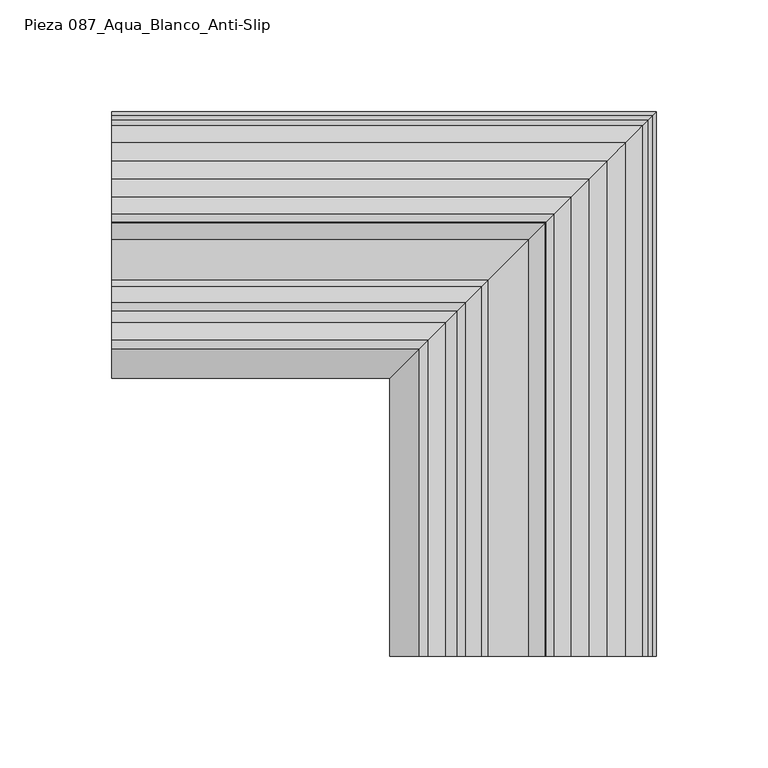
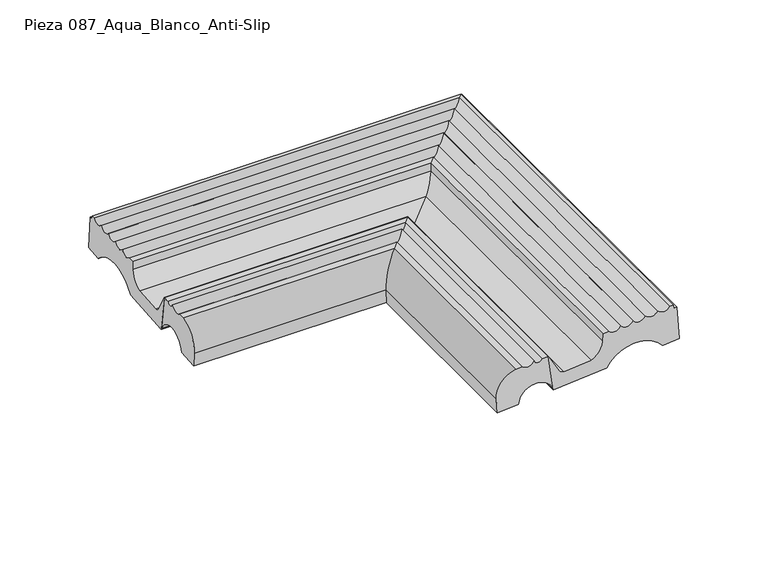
"""IFC4 building model written with IfcOpenShell, lengths in millimetres: proxy geometry, ROSA GRES_087 : Pieza 087_Aqua_Blanco_Anti-Slip."""

from ifc_helpers import new_model, si_unit, frame, origin, place, context, project, spatial, polyline, circle_curve, ellipse_curve, source, transform, mapped, element, save
from ifc_brep_helpers import plane_surface, cylinder_surface, revolved_surface, advanced_brep


def pieza_087_aqua_blanco_anti_slip_ab740b2f(model_context):
    return source(origin(), model_context, "Body", "AdvancedBrep", [
        advanced_brep(
        [(-124.7, 108.342302, 181.9645582), (-124.7, 71.8498608, 178.9942432), (-124.7, 37.1820416, 176.172444), (-124.7, 33.8762309, 200.4746837), (-124.7, 40.9402045, 187.8896178), (-124.7, 43.8250834, 186.3216491), (-124.7, 61.867532, 187.7902205), (-124.7, 69.3023399, 198.236672), (-124.7, 69.6579726, 203.3871621), (-124.7, 73.3820924, 203.6902881), (-124.7, 81.0271834, 204.8942251), (-124.7, 89.0833894, 205.555394), (-124.7, 97.1292049, 206.1928503), (-124.7, 105.2742048, 206.836894), (-124.7, 113.0660814, 207.0070959), (-124.7, 115.3491545, 207.1930072), (-124.7, 115.5338707, 204.9236084), (-124.7, 117.4809059, 205.0820876), (-124.7, 119.2900344, 182.8556525), (108.342302, -124.7, 181.9645582), (119.2900344, -124.7, 182.8556525), (117.4809059, -124.7, 205.0820876), (115.5338707, -124.7, 204.9236084), (115.3491545, -124.7, 207.1930072), (113.0660814, -124.7, 207.0070959), (105.2742048, -124.7, 206.836894), (97.1292049, -124.7, 206.1928503), (89.0833894, -124.7, 205.555394), (81.0271834, -124.7, 204.8942251), (73.3820924, -124.7, 203.6902881), (69.6579726, -124.7, 203.3871621), (69.3023399, -124.7, 198.236672), (61.867532, -124.7, 187.7902205), (43.8250834, -124.7, 186.3216491), (40.9402045, -124.7, 187.8896178), (33.8762309, -124.7, 200.4746837), (37.1820416, -124.7, 176.172444), (71.8498608, -124.7, 178.9942432), (108.342302, 108.342302, 181.9645582), (71.8498608, 71.8498608, 178.9942432), (37.1820416, 37.1820416, 176.172444), (33.8762309, 33.8762309, 200.4746837), (40.9402045, 40.9402045, 187.8896178), (43.8250834, 43.8250834, 186.3216491), (61.867532, 61.867532, 187.7902205), (69.3023399, 69.3023399, 198.236672), (69.6579726, 69.6579726, 203.3871621), (73.3820924, 73.3820924, 203.6902881), (81.0271834, 81.0271834, 204.8942251), (89.0833894, 89.0833894, 205.555394), (97.1292049, 97.1292049, 206.1928503), (105.2742048, 105.2742048, 206.836894), (113.0660814, 113.0660814, 207.0070959), (115.3491545, 115.3491545, 207.1930072), (115.5338707, 115.5338707, 204.9236084), (117.4809059, 117.4809059, 205.0820876), (119.2900344, 119.2900344, 182.8556525)],
        [
            (0, 1, circle_curve(frame((-124.7, 91.1625174, 167.3774726), z_axis=(1.0, 0.0, 0.0), x_axis=(0.0, -1.0, 0.0)), 22.5372595)),
            (1, 2),
            (2, 3),
            (3, 4, circle_curve(frame((-124.7, 106.9597263, 233.2212806), z_axis=(1.0, 0.0, 0.0), x_axis=(0.0, -1.0, 0.0)), 80.084561)),
            (4, 5, circle_curve(frame((-124.7, 43.5817022, 189.3117604), z_axis=(1.0, 0.0, 0.0), x_axis=(0.0, -1.0, 0.0)), 3.0)),
            (5, 6),
            (6, 7, circle_curve(frame((-124.7, 57.0579989, 199.0821231), z_axis=(1.0, 0.0, 0.0), x_axis=(0.0, -1.0, 0.0)), 12.2734948)),
            (7, 8),
            (8, 9),
            (9, 10, circle_curve(frame((-124.7, 76.8218788, 206.722806), z_axis=(1.0, 0.0, 0.0), x_axis=(0.0, -1.0, 0.0)), 4.5856619)),
            (10, 11, circle_curve(frame((-124.7, 84.8780848, 207.3839748), z_axis=(1.0, 0.0, 0.0), x_axis=(0.0, -1.0, 0.0)), 4.5856619)),
            (11, 12, circle_curve(frame((-124.7, 92.9342908, 208.0451437), z_axis=(1.0, 0.0, 0.0), x_axis=(0.0, -1.0, 0.0)), 4.5856619)),
            (12, 13, circle_curve(frame((-124.7, 100.9933064, 209.1504161), z_axis=(1.0, 0.0, 0.0), x_axis=(0.0, -1.0, 0.0)), 4.8660534)),
            (13, 14, circle_curve(frame((-124.7, 109.1074243, 209.7932705), z_axis=(1.0, 0.0, 0.0), x_axis=(0.0, -1.0, 0.0)), 4.8408403)),
            (14, 15),
            (15, 16),
            (16, 17),
            (17, 18),
            (18, 0),
            (19, 20),
            (20, 21),
            (21, 22),
            (22, 23),
            (23, 24),
            (24, 25, circle_curve(frame((109.1074243, -124.7, 209.7932705), z_axis=(0.0, 1.0, 0.0), x_axis=(-1.0, 0.0, 0.0)), 4.8408403)),
            (25, 26, circle_curve(frame((100.9933064, -124.7, 209.1504161), z_axis=(0.0, 1.0, 0.0), x_axis=(-1.0, 0.0, 0.0)), 4.8660534)),
            (26, 27, circle_curve(frame((92.9342908, -124.7, 208.0451437), z_axis=(0.0, 1.0, 0.0), x_axis=(-1.0, 0.0, 0.0)), 4.5856619)),
            (27, 28, circle_curve(frame((84.8780848, -124.7, 207.3839748), z_axis=(0.0, 1.0, 0.0), x_axis=(-1.0, 0.0, 0.0)), 4.5856619)),
            (28, 29, circle_curve(frame((76.8218788, -124.7, 206.722806), z_axis=(0.0, 1.0, 0.0), x_axis=(-1.0, 0.0, 0.0)), 4.5856619)),
            (29, 30),
            (30, 31),
            (31, 32, circle_curve(frame((57.0579989, -124.7, 199.0821231), z_axis=(0.0, 1.0, 0.0), x_axis=(-1.0, 0.0, 0.0)), 12.2734948)),
            (32, 33),
            (33, 34, circle_curve(frame((43.5817022, -124.7, 189.3117604), z_axis=(0.0, 1.0, 0.0), x_axis=(-1.0, 0.0, 0.0)), 3.0)),
            (34, 35, circle_curve(frame((106.9597263, -124.7, 233.2212806), z_axis=(0.0, 1.0, 0.0), x_axis=(-1.0, 0.0, 0.0)), 80.084561)),
            (35, 36),
            (36, 37),
            (37, 19, circle_curve(frame((91.1625174, -124.7, 167.3774726), z_axis=(0.0, 1.0, 0.0), x_axis=(-1.0, 0.0, 0.0)), 22.5372595)),
            (0, 38),
            (38, 39, ellipse_curve(frame((91.1625174, 91.1625174, 167.3774726), z_axis=(0.7071067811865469, -0.7071067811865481, 0.0), x_axis=(0.7071067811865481, 0.7071067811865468, 0.0)), 31.872498, 22.5372595)),
            (39, 1),
            (39, 40),
            (40, 2),
            (40, 41),
            (41, 3),
            (41, 42, ellipse_curve(frame((106.9597263, 106.9597263, 233.2212806), z_axis=(0.7071067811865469, -0.7071067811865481, 0.0), x_axis=(0.7071067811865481, 0.7071067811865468, 0.0)), 113.2566723, 80.084561)),
            (42, 4),
            (42, 43, ellipse_curve(frame((43.5817022, 43.5817022, 189.3117604), z_axis=(0.7071067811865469, -0.7071067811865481, 0.0), x_axis=(0.7071067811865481, 0.7071067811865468, 0.0)), 4.2426407, 3.0)),
            (43, 5),
            (43, 44),
            (44, 6),
            (44, 45, ellipse_curve(frame((57.0579989, 57.0579989, 199.0821231), z_axis=(0.7071067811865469, -0.7071067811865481, 0.0), x_axis=(0.7071067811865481, 0.7071067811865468, 0.0)), 17.3573428, 12.2734948)),
            (45, 7),
            (45, 46),
            (46, 8),
            (46, 47),
            (47, 9),
            (47, 48, ellipse_curve(frame((76.8218788, 76.8218788, 206.722806), z_axis=(0.7071067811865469, -0.7071067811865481, 0.0), x_axis=(0.7071067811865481, 0.7071067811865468, 0.0)), 6.4851052, 4.5856619)),
            (48, 10),
            (48, 49, ellipse_curve(frame((84.8780848, 84.8780848, 207.3839748), z_axis=(0.7071067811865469, -0.7071067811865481, 0.0), x_axis=(0.7071067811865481, 0.7071067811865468, 0.0)), 6.4851052, 4.5856619)),
            (49, 11),
            (49, 50, ellipse_curve(frame((92.9342908, 92.9342908, 208.0451437), z_axis=(0.7071067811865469, -0.7071067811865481, 0.0), x_axis=(0.7071067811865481, 0.7071067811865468, 0.0)), 6.4851052, 4.5856619)),
            (50, 12),
            (50, 51, ellipse_curve(frame((100.9933064, 100.9933064, 209.1504161), z_axis=(0.7071067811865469, -0.7071067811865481, 0.0), x_axis=(0.7071067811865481, 0.7071067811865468, 0.0)), 6.8816387, 4.8660534)),
            (51, 13),
            (51, 52, ellipse_curve(frame((109.1074243, 109.1074243, 209.7932705), z_axis=(0.7071067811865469, -0.7071067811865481, 0.0), x_axis=(0.7071067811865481, 0.7071067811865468, 0.0)), 6.8459819, 4.8408403)),
            (52, 14),
            (52, 53),
            (53, 15),
            (53, 54),
            (54, 16),
            (54, 55),
            (55, 17),
            (55, 56),
            (56, 18),
            (56, 38),
            (38, 19),
            (37, 39),
            (36, 40),
            (35, 41),
            (34, 42),
            (33, 43),
            (32, 44),
            (31, 45),
            (30, 46),
            (29, 47),
            (28, 48),
            (27, 49),
            (26, 50),
            (25, 51),
            (24, 52),
            (23, 53),
            (22, 54),
            (21, 55),
            (20, 56),
        ],
        [
            plane_surface(frame((-124.7, 0.0, 0.0), z_axis=(-1.0, 0.0, 0.0), x_axis=(0.0, 0.0, 1.0))),
            plane_surface(frame((0.0, -124.7, 0.0), z_axis=(0.0, -1.0, 0.0), x_axis=(0.0, 0.0, 1.0))),
            revolved_surface(polyline([(113.69977686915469, 68.6252579, 167.3774726), (-124.7, 68.6252579, 167.3774726)]), (-124.7, 91.1625174, 167.3774726), (1.0, 0.0, 0.0)),
            plane_surface(frame((-124.7, 71.8498608, 178.9942432), z_axis=(0.0, 0.08112705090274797, -0.9967037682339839), x_axis=(1.0, 0.0, 0.0))),
            plane_surface(frame((-124.7, 37.1820416, 176.172444), z_axis=(0.0, -0.9908744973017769, -0.13478772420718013), x_axis=(1.0, 0.0, 0.0))),
            revolved_surface(polyline([(187.04428729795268, 26.875165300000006, 233.2212806), (-124.7, 26.875165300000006, 233.2212806)]), (-124.7, 106.9597263, 233.2212806), (1.0, 0.0, 0.0)),
            revolved_surface(polyline([(46.58170220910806, 40.5817022, 189.3117604), (-124.7, 40.5817022, 189.3117604)]), (-124.7, 43.5817022, 189.3117604), (1.0, 0.0, 0.0)),
            plane_surface(frame((-124.7, 43.8250834, 186.3216491), z_axis=(0.0, -0.08112705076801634, 0.9967037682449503), x_axis=(1.0, 0.0, 0.0))),
            revolved_surface(polyline([(69.33149369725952, 44.7845041, 199.0821231), (-124.7, 44.7845041, 199.0821231)]), (-124.7, 57.0579989, 199.0821231), (1.0, 0.0, 0.0)),
            plane_surface(frame((-124.7, 69.3023399, 198.236672), z_axis=(0.0, -0.9976246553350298, 0.0688843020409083), x_axis=(1.0, 0.0, 0.0))),
            plane_surface(frame((-124.7, 69.6579726, 203.3871621), z_axis=(0.0, -0.08112705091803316, 0.9967037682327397), x_axis=(1.0, 0.0, 0.0))),
            revolved_surface(polyline([(81.40754066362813, 72.23621689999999, 206.722806), (-124.7, 72.23621689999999, 206.722806)]), (-124.7, 76.8218788, 206.722806), (1.0, 0.0, 0.0)),
            revolved_surface(polyline([(89.46374666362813, 80.29242289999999, 207.3839748), (-124.7, 80.29242289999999, 207.3839748)]), (-124.7, 84.8780848, 207.3839748), (1.0, 0.0, 0.0)),
            revolved_surface(polyline([(97.51995266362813, 88.3486289, 208.0451437), (-124.7, 88.3486289, 208.0451437)]), (-124.7, 92.9342908, 208.0451437), (1.0, 0.0, 0.0)),
            revolved_surface(polyline([(105.85935979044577, 96.127253, 209.1504161), (-124.7, 96.127253, 209.1504161)]), (-124.7, 100.9933064, 209.1504161), (1.0, 0.0, 0.0)),
            revolved_surface(polyline([(113.94826452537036, 104.26658400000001, 209.7932705), (-124.7, 104.26658400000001, 209.7932705)]), (-124.7, 109.1074243, 209.7932705), (1.0, 0.0, 0.0)),
            plane_surface(frame((-124.7, 113.0660814, 207.0070959), z_axis=(0.0, -0.08116163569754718, 0.9967009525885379), x_axis=(1.0, 0.0, 0.0))),
            plane_surface(frame((-124.7, 115.3491545, 207.1930072), z_axis=(0.0, 0.9967038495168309, 0.08112605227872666), x_axis=(1.0, 0.0, 0.0))),
            plane_surface(frame((-124.7, 115.5338707, 204.9236084), z_axis=(0.0, -0.081126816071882, 0.9967037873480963), x_axis=(1.0, 0.0, 0.0))),
            plane_surface(frame((-124.7, 117.4809059, 205.0820876), z_axis=(0.0, 0.9967037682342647, 0.0811270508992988), x_axis=(1.0, 0.0, 0.0))),
            plane_surface(frame((-124.7, 119.2900344, 182.8556525), z_axis=(0.0, 0.08112703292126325, -0.9967037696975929), x_axis=(1.0, 0.0, 0.0))),
            revolved_surface(polyline([(68.6252579, -124.7, 167.3774726), (68.6252579, 113.69977686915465, 167.3774726)]), (91.1625174, 0.0, 167.3774726), (0.0, -1.0, 0.0)),
            plane_surface(frame((71.8498608, 71.8498608, 178.9942432), z_axis=(0.08112705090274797, 0.0, -0.9967037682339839), x_axis=(0.0, -1.0, 0.0))),
            plane_surface(frame((37.1820416, 37.1820416, 176.172444), z_axis=(-0.9908744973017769, 0.0, -0.13478772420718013), x_axis=(0.0, -1.0, 0.0))),
            revolved_surface(polyline([(26.875165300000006, -124.7, 233.2212806), (26.875165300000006, 187.04428729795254, 233.2212806)]), (106.9597263, 0.0, 233.2212806), (0.0, -1.0, 0.0)),
            revolved_surface(polyline([(40.5817022, -124.7, 189.3117604), (40.5817022, 46.58170220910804, 189.3117604)]), (43.5817022, 0.0, 189.3117604), (0.0, -1.0, 0.0)),
            plane_surface(frame((43.8250834, 43.8250834, 186.3216491), z_axis=(-0.08112705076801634, 0.0, 0.9967037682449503), x_axis=(0.0, -1.0, 0.0))),
            revolved_surface(polyline([(44.7845041, -124.7, 199.0821231), (44.7845041, 69.33149369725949, 199.0821231)]), (57.0579989, 0.0, 199.0821231), (0.0, -1.0, 0.0)),
            plane_surface(frame((69.3023399, 69.3023399, 198.236672), z_axis=(-0.9976246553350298, 0.0, 0.0688843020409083), x_axis=(0.0, -1.0, 0.0))),
            plane_surface(frame((69.6579726, 69.6579726, 203.3871621), z_axis=(-0.08112705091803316, 0.0, 0.9967037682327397), x_axis=(0.0, -1.0, 0.0))),
            revolved_surface(polyline([(72.23621689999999, -124.7, 206.722806), (72.23621689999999, 81.40754066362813, 206.722806)]), (76.8218788, 0.0, 206.722806), (0.0, -1.0, 0.0)),
            revolved_surface(polyline([(80.29242289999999, -124.7, 207.3839748), (80.29242289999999, 89.46374666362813, 207.3839748)]), (84.8780848, 0.0, 207.3839748), (0.0, -1.0, 0.0)),
            revolved_surface(polyline([(88.3486289, -124.7, 208.0451437), (88.3486289, 97.51995266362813, 208.0451437)]), (92.9342908, 0.0, 208.0451437), (0.0, -1.0, 0.0)),
            revolved_surface(polyline([(96.127253, -124.7, 209.1504161), (96.127253, 105.85935979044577, 209.1504161)]), (100.9933064, 0.0, 209.1504161), (0.0, -1.0, 0.0)),
            revolved_surface(polyline([(104.26658400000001, -124.7, 209.7932705), (104.26658400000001, 113.94826452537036, 209.7932705)]), (109.1074243, 0.0, 209.7932705), (0.0, -1.0, 0.0)),
            plane_surface(frame((113.0660814, 113.0660814, 207.0070959), z_axis=(-0.08116163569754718, 0.0, 0.9967009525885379), x_axis=(0.0, -1.0, 0.0))),
            plane_surface(frame((115.3491545, 115.3491545, 207.1930072), z_axis=(0.9967038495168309, 0.0, 0.08112605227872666), x_axis=(0.0, -1.0, 0.0))),
            plane_surface(frame((115.5338707, 115.5338707, 204.9236084), z_axis=(-0.081126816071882, 0.0, 0.9967037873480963), x_axis=(0.0, -1.0, 0.0))),
            plane_surface(frame((117.4809059, 117.4809059, 205.0820876), z_axis=(0.9967037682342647, 0.0, 0.0811270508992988), x_axis=(0.0, -1.0, 0.0))),
            plane_surface(frame((119.2900344, 119.2900344, 182.8556525), z_axis=(0.08112703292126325, 0.0, -0.9967037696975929), x_axis=(0.0, -1.0, 0.0))),
        ],
        [
            (0, [[1, 2, 3, 4, 5, 6, 7, 8, 9, 10, 11, 12, 13, 14, 15, 16, 17, 18, 19]]),
            (1, [[20, 21, 22, 23, 24, 25, 26, 27, 28, 29, 30, 31, 32, 33, 34, 35, 36, 37, 38]]),
            (2, [[-1, 39, 40, 41]]),
            (3, [[-2, -41, 42, 43]]),
            (4, [[-3, -43, 44, 45]]),
            (5, [[-4, -45, 46, 47]]),
            (6, [[-5, -47, 48, 49]]),
            (7, [[-6, -49, 50, 51]]),
            (8, [[-7, -51, 52, 53]]),
            (9, [[-8, -53, 54, 55]]),
            (10, [[-9, -55, 56, 57]]),
            (11, [[-10, -57, 58, 59]]),
            (12, [[-11, -59, 60, 61]]),
            (13, [[-12, -61, 62, 63]]),
            (14, [[-13, -63, 64, 65]]),
            (15, [[-14, -65, 66, 67]]),
            (16, [[-15, -67, 68, 69]]),
            (17, [[-16, -69, 70, 71]]),
            (18, [[-17, -71, 72, 73]]),
            (19, [[-18, -73, 74, 75]]),
            (20, [[-19, -75, 76, -39]]),
            (21, [[-40, 77, -38, 78]]),
            (22, [[-42, -78, -37, 79]]),
            (23, [[-44, -79, -36, 80]]),
            (24, [[-46, -80, -35, 81]]),
            (25, [[-48, -81, -34, 82]]),
            (26, [[-50, -82, -33, 83]]),
            (27, [[-52, -83, -32, 84]]),
            (28, [[-54, -84, -31, 85]]),
            (29, [[-56, -85, -30, 86]]),
            (30, [[-58, -86, -29, 87]]),
            (31, [[-60, -87, -28, 88]]),
            (32, [[-62, -88, -27, 89]]),
            (33, [[-64, -89, -26, 90]]),
            (34, [[-66, -90, -25, 91]]),
            (35, [[-68, -91, -24, 92]]),
            (36, [[-70, -92, -23, 93]]),
            (37, [[-72, -93, -22, 94]]),
            (38, [[-74, -94, -21, 95]]),
            (39, [[-76, -95, -20, -77]]),
        ],
    ),
        advanced_brep(
        [(-124.7, 14.3742659, 174.3159971), (-124.7, 0.6896004, 173.202129), (-124.7, -0.0710994, 182.547869), (-124.7, 12.7748841, 198.875801), (-124.7, 16.9364731, 199.1796191), (-124.7, 24.7247274, 200.6193952), (-124.7, 29.9345538, 200.1538709), (-124.7, 33.8762309, 200.4746837), (-124.7, 37.1820416, 176.172444), (14.3742659, 14.3742659, 174.3159971), (0.6896004, 0.6896004, 173.202129), (-0.0710994, -0.0710994, 182.547869), (12.7748841, 12.7748841, 198.875801), (16.9364731, 16.9364731, 199.1796191), (24.7247274, 24.7247274, 200.6193952), (29.9345538, 29.9345538, 200.1538709), (33.8762309, 33.8762309, 200.4746837), (37.1820416, 37.1820416, 176.172444), (14.3742659, -124.7099656, 174.3159971), (37.1820416, -124.7099656, 176.172444), (33.8762309, -124.7099656, 200.4746837), (29.9345538, -124.7099656, 200.1538709), (24.7247274, -124.7099656, 200.6193952), (16.9364731, -124.7099656, 199.1796191), (12.7748841, -124.7099656, 198.875801), (-0.0710994, -124.7099656, 182.547869), (0.6896004, -124.7099656, 173.202129)],
        [
            (0, 1),
            (1, 2),
            (2, 3, circle_curve(frame((-124.7, 15.1536138, 183.7870899), z_axis=(-1.0, 0.0, 0.0), x_axis=(0.0, -1.0, 0.0)), 15.2750633)),
            (3, 4),
            (4, 5, circle_curve(frame((-124.7, 20.3008643, 202.7650351), z_axis=(1.0, 0.0, 0.0), x_axis=(0.0, -1.0, 0.0)), 4.9167404)),
            (5, 6, circle_curve(frame((-124.7, 27.3971937, 201.142641), z_axis=(1.0, 0.0, 0.0), x_axis=(0.0, -1.0, 0.0)), 2.7232081)),
            (6, 7),
            (7, 8),
            (8, 0, circle_curve(frame((-124.7, 25.9545763, 173.0767428), z_axis=(1.0, 0.0, 0.0), x_axis=(0.0, -1.0, 0.0)), 11.6464304)),
            (0, 9),
            (9, 10),
            (10, 1),
            (10, 11),
            (11, 2),
            (11, 12, ellipse_curve(frame((15.1536138, 15.1536138, 183.7870899), z_axis=(-0.7071067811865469, 0.7071067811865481, 0.0), x_axis=(-0.7071067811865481, -0.7071067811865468, 0.0)), 21.6022017, 15.2750633)),
            (12, 3),
            (12, 13),
            (13, 4),
            (13, 14, ellipse_curve(frame((20.3008643, 20.3008643, 202.7650351), z_axis=(0.7071067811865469, -0.7071067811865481, 0.0), x_axis=(0.7071067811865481, 0.7071067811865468, 0.0)), 6.9533209, 4.9167404)),
            (14, 5),
            (14, 15, ellipse_curve(frame((27.3971937, 27.3971937, 201.142641), z_axis=(0.7071067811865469, -0.7071067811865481, 0.0), x_axis=(0.7071067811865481, 0.7071067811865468, 0.0)), 3.8511979, 2.7232081)),
            (15, 6),
            (15, 16),
            (16, 7),
            (16, 17),
            (17, 8),
            (17, 9, ellipse_curve(frame((25.9545763, 25.9545763, 173.0767428), z_axis=(0.7071067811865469, -0.7071067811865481, 0.0), x_axis=(0.7071067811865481, 0.7071067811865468, 0.0)), 16.4705399, 11.6464304)),
            (18, 19, circle_curve(frame((25.9545763, -124.7099656, 173.0767428), z_axis=(0.0, 1.0, 0.0), x_axis=(-1.0, 0.0, 0.0)), 11.6464304)),
            (19, 20),
            (20, 21),
            (21, 22, circle_curve(frame((27.3971937, -124.7099656, 201.142641), z_axis=(0.0, 1.0, 0.0), x_axis=(-1.0, 0.0, 0.0)), 2.7232081)),
            (22, 23, circle_curve(frame((20.3008643, -124.7099656, 202.7650351), z_axis=(0.0, 1.0, 0.0), x_axis=(-1.0, 0.0, 0.0)), 4.9167404)),
            (23, 24),
            (24, 25, circle_curve(frame((15.1536138, -124.7099656, 183.7870899), z_axis=(0.0, -1.0, 0.0), x_axis=(-1.0, 0.0, 0.0)), 15.2750633)),
            (25, 26),
            (26, 18),
            (9, 18),
            (26, 10),
            (25, 11),
            (24, 12),
            (23, 13),
            (22, 14),
            (21, 15),
            (20, 16),
            (19, 17),
        ],
        [
            plane_surface(frame((-124.7, 0.0, 0.0), z_axis=(-1.0, 0.0, 0.0), x_axis=(0.0, 0.0, 1.0))),
            plane_surface(frame((-124.7, 14.3742659, 174.3159971), z_axis=(0.0, 0.0811270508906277, -0.9967037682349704), x_axis=(1.0, 0.0, 0.0))),
            plane_surface(frame((-124.7, 0.6896004, 173.202129), z_axis=(0.0, -0.9967037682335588, -0.08112705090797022), x_axis=(1.0, 0.0, 0.0))),
            cylinder_surface(frame((-124.7, 15.1536138, 183.7870899), z_axis=(-1.0, 0.0, 0.0), x_axis=(0.0, -1.0, 0.0)), 15.2750633),
            plane_surface(frame((-124.7, 12.7748841, 198.875801), z_axis=(0.0, -0.07281152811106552, 0.9973457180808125), x_axis=(1.0, 0.0, 0.0))),
            revolved_surface(polyline([(25.21760466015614, 15.3841239, 202.7650351), (-124.7, 15.3841239, 202.7650351)]), (-124.7, 20.3008643, 202.7650351), (1.0, 0.0, 0.0)),
            revolved_surface(polyline([(30.12040185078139, 24.673985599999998, 201.142641), (-124.7, 24.673985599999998, 201.142641)]), (-124.7, 27.3971937, 201.142641), (1.0, 0.0, 0.0)),
            plane_surface(frame((-124.7, 29.9345538, 200.1538709), z_axis=(0.0, -0.0811216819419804, 0.9967042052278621), x_axis=(1.0, 0.0, 0.0))),
            plane_surface(frame((-124.7, 33.8762309, 200.4746837), z_axis=(0.0, 0.9908744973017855, 0.13478772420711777), x_axis=(1.0, 0.0, 0.0))),
            revolved_surface(polyline([(37.601006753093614, 14.3081459, 173.0767428), (-124.7, 14.3081459, 173.0767428)]), (-124.7, 25.9545763, 173.0767428), (1.0, 0.0, 0.0)),
            plane_surface(frame((0.0, -124.7099656, 0.0), z_axis=(0.0, -1.0, 0.0), x_axis=(0.0, 0.0, 1.0))),
            plane_surface(frame((14.3742659, 14.3742659, 174.3159971), z_axis=(0.0811270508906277, 0.0, -0.9967037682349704), x_axis=(0.0, -1.0, 0.0))),
            plane_surface(frame((0.6896004, 0.6896004, 173.202129), z_axis=(-0.9967037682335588, 0.0, -0.08112705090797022), x_axis=(0.0, -1.0, 0.0))),
            cylinder_surface(frame((15.1536138, 0.0, 183.7870899), z_axis=(0.0, 1.0, 0.0), x_axis=(-1.0, 0.0, 0.0)), 15.2750633),
            plane_surface(frame((12.7748841, 12.7748841, 198.875801), z_axis=(-0.07281152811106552, 0.0, 0.9973457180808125), x_axis=(0.0, -1.0, 0.0))),
            revolved_surface(polyline([(15.3841239, -124.7099656, 202.7650351), (15.3841239, 25.21760466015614, 202.7650351)]), (20.3008643, 0.0, 202.7650351), (0.0, -1.0, 0.0)),
            revolved_surface(polyline([(24.673985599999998, -124.7099656, 201.142641), (24.673985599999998, 30.120401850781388, 201.142641)]), (27.3971937, 0.0, 201.142641), (0.0, -1.0, 0.0)),
            plane_surface(frame((29.9345538, 29.9345538, 200.1538709), z_axis=(-0.0811216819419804, 0.0, 0.9967042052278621), x_axis=(0.0, -1.0, 0.0))),
            plane_surface(frame((33.8762309, 33.8762309, 200.4746837), z_axis=(0.9908744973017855, 0.0, 0.13478772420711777), x_axis=(0.0, -1.0, 0.0))),
            revolved_surface(polyline([(14.3081459, -124.7099656, 173.0767428), (14.3081459, 37.601006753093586, 173.0767428)]), (25.9545763, 0.0, 173.0767428), (0.0, -1.0, 0.0)),
        ],
        [
            (0, [[1, 2, 3, 4, 5, 6, 7, 8, 9]]),
            (1, [[-1, 10, 11, 12]]),
            (2, [[-2, -12, 13, 14]]),
            (3, [[-3, -14, 15, 16]]),
            (4, [[-4, -16, 17, 18]]),
            (5, [[-5, -18, 19, 20]]),
            (6, [[-6, -20, 21, 22]]),
            (7, [[-7, -22, 23, 24]]),
            (8, [[-8, -24, 25, 26]]),
            (9, [[-9, -26, 27, -10]]),
            (10, [[28, 29, 30, 31, 32, 33, 34, 35, 36]]),
            (11, [[-11, 37, -36, 38]]),
            (12, [[-13, -38, -35, 39]]),
            (13, [[-15, -39, -34, 40]]),
            (14, [[-17, -40, -33, 41]]),
            (15, [[-19, -41, -32, 42]]),
            (16, [[-21, -42, -31, 43]]),
            (17, [[-23, -43, -30, 44]]),
            (18, [[-25, -44, -29, 45]]),
            (19, [[-27, -45, -28, -37]]),
        ],
    ),
    ])


if __name__ == "__main__":
    model = new_model("IFC4")
    model_context = context("Model", 3, world=origin())
    ifc_project = project(units=[si_unit("LENGTHUNIT", "METRE", prefix="MILLI")], contexts=[model_context])
    site = spatial("IfcSite", under=ifc_project)
    building = spatial("IfcBuilding", under=site)
    placement = place(None, origin())
    pieza_087_aqua_blanco_anti_slip_shape = pieza_087_aqua_blanco_anti_slip_ab740b2f(model_context)
    element("IfcBuildingElementProxy", 1, Name="ROSA GRES_087 : Pieza 087_Aqua_Blanco_Anti-Slip", ObjectType="ROSA GRES_087 : Pieza 087_Aqua_Blanco_Anti-Slip", at=placement, inside=building, context=model_context, shape_type="MappedRepresentation", body=[
        mapped(pieza_087_aqua_blanco_anti_slip_shape, transform((0.0, 0.0, 0.0), x_axis=(1.0, 0.0, 0.0), y_axis=(0.0, 1.0, 0.0), z_axis=(0.0, 0.0, 1.0))),
    ])
    save(model, "model.ifc")
